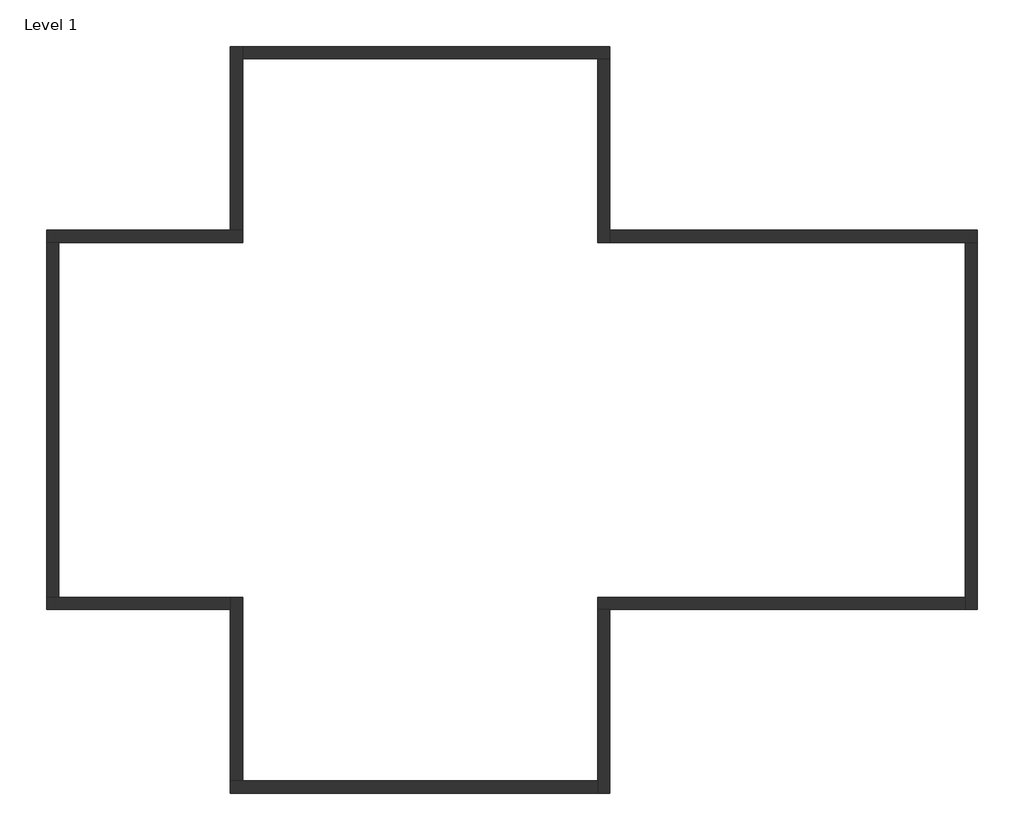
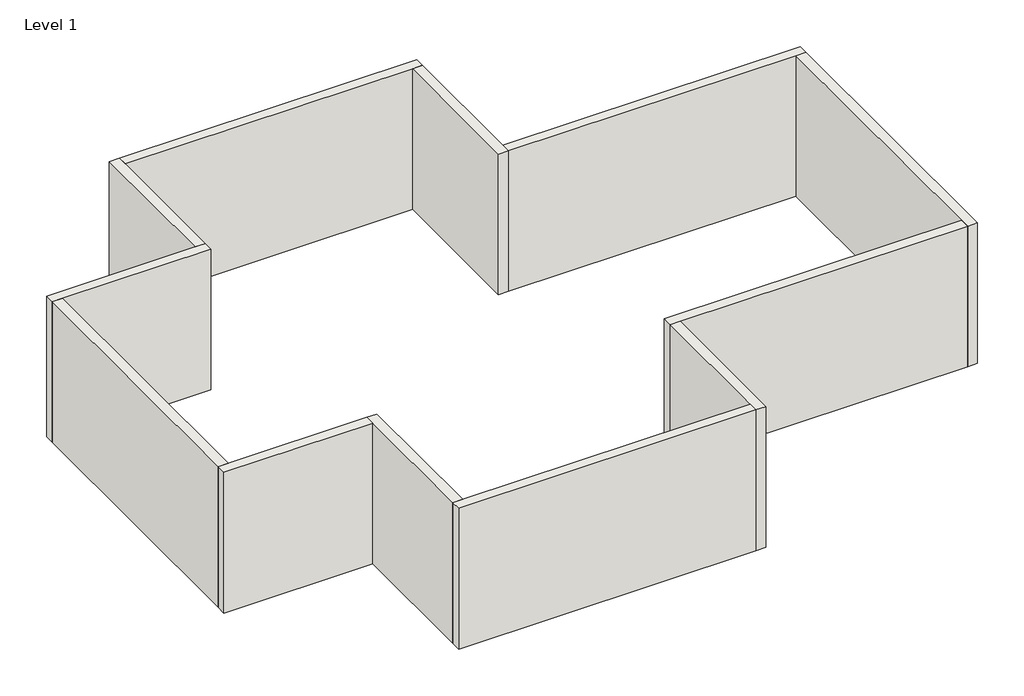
# One storey: 12 walls.
"""IFC4 building model written with IfcOpenShell, lengths in millimetres."""

from ifc_helpers import new_model, si_unit, origin, origin_with_axes, place, context, project, spatial, polyline, outline, extrude, faceted_brep, element, save

model = new_model("IFC4")

# Units and contexts
model_context = context("Model", 3, world=origin())
ifc_project = project(units=[si_unit("LENGTHUNIT", "METRE", prefix="MILLI")], contexts=[model_context])

# Site, building, storey
site = spatial("IfcSite", under=ifc_project)
building = spatial("IfcBuilding", under=site)
storey = spatial("IfcBuildingStorey", under=building, Name="Level 1", Elevation=0.0)

# Walls
placement = place(None, origin())
element("IfcWall", 1, ObjectType="Generic - 8\"", at=placement, inside=storey, context=model_context, shape_type="Brep", body=[
    faceted_brep([(-10384.9497318, 3700.8807659, 0.0), (-10181.7497318, 3700.8807659, 0.0), (-7133.7497318, 3700.8807659, 0.0), (-7133.7497318, 3700.8807659, 3048.0), (-10181.7497318, 3700.8807659, 3048.0), (-10384.9497318, 3700.8807659, 3048.0), (-10384.9497318, 3904.0807659, 0.0), (-10384.9497318, 3904.0807659, 3048.0), (-7336.9497318, 3904.0807659, 3048.0), (-7133.7497318, 3904.0807659, 3048.0), (-7133.7497318, 3904.0807659, 0.0), (-7336.9497318, 3904.0807659, 0.0)], [[[0, 1, 2, 3, 4, 5]], [[6, 7, 8, 9, 10, 11]], [[2, 1, 0, 6, 11, 10]], [[5, 4, 3, 9, 8, 7]], [[3, 2, 10, 9]], [[0, 5, 7, 6]]]),
])
element("IfcWall", 2, ObjectType="Generic - 8\"", at=placement, inside=storey, context=model_context, shape_type="Brep", body=[
    faceted_brep([(-7133.7497318, 3904.0807659, 0.0), (-7133.7497318, 6748.8807659, 0.0), (-7133.7497318, 6952.0807659, 0.0), (-7133.7497318, 6952.0807659, 3048.0), (-7133.7497318, 6748.8807659, 3048.0), (-7133.7497318, 3904.0807659, 3048.0), (-7336.9497318, 3904.0807659, 0.0), (-7336.9497318, 3904.0807659, 3048.0), (-7336.9497318, 6952.0807659, 3048.0), (-7336.9497318, 6952.0807659, 0.0)], [[[0, 1, 2, 3, 4, 5]], [[6, 7, 8, 9]], [[2, 1, 0, 6, 9]], [[5, 4, 3, 8, 7]], [[3, 2, 9, 8]], [[0, 5, 7, 6]]]),
])
element("IfcWall", 3, ObjectType="Generic - 8\"", at=placement, inside=storey, context=model_context, shape_type="Brep", body=[
    faceted_brep([(-7133.7497318, 6748.8807659, 0.0), (-1240.9497318, 6748.8807659, 0.0), (-1037.7497318, 6748.8807659, 0.0), (-1037.7497318, 6748.8807659, 3048.0), (-1240.9497318, 6748.8807659, 3048.0), (-7133.7497318, 6748.8807659, 3048.0), (-7133.7497318, 6952.0807659, 0.0), (-7133.7497318, 6952.0807659, 3048.0), (-1037.7497318, 6952.0807659, 3048.0), (-1037.7497318, 6952.0807659, 0.0)], [[[0, 1, 2, 3, 4, 5]], [[6, 7, 8, 9]], [[2, 1, 0, 6, 9]], [[5, 4, 3, 8, 7]], [[3, 2, 9, 8]], [[0, 5, 7, 6]]]),
])
element("IfcWall", 4, ObjectType="Generic - 8\"", at=placement, inside=storey, context=model_context, shape_type="Brep", body=[
    faceted_brep([(-1240.9497318, 6748.8807659, 0.0), (-1240.9497318, 3700.8807659, 0.0), (-1240.9497318, 3700.8807659, 3048.0), (-1240.9497318, 6748.8807659, 3048.0), (-1037.7497318, 6748.8807659, 0.0), (-1037.7497318, 6748.8807659, 3048.0), (-1037.7497318, 3904.0807659, 3048.0), (-1037.7497318, 3700.8807659, 3048.0), (-1037.7497318, 3700.8807659, 0.0), (-1037.7497318, 3904.0807659, 0.0)], [[[0, 1, 2, 3]], [[4, 5, 6, 7, 8, 9]], [[1, 0, 4, 9, 8]], [[3, 2, 7, 6, 5]], [[2, 1, 8, 7]], [[0, 3, 5, 4]]]),
])
element("IfcWall", 5, ObjectType="Generic - 8\"", at=placement, inside=storey, context=model_context, shape_type="Brep", body=[
    faceted_brep([(-1037.7497318, 3700.8807659, 0.0), (4855.0502682, 3700.8807659, 0.0), (5058.2502682, 3700.8807659, 0.0), (5058.2502682, 3700.8807659, 3048.0), (4855.0502682, 3700.8807659, 3048.0), (-1037.7497318, 3700.8807659, 3048.0), (-1037.7497318, 3904.0807659, 0.0), (-1037.7497318, 3904.0807659, 3048.0), (5058.2502682, 3904.0807659, 3048.0), (5058.2502682, 3904.0807659, 0.0)], [[[0, 1, 2, 3, 4, 5]], [[6, 7, 8, 9]], [[2, 1, 0, 6, 9]], [[5, 4, 3, 8, 7]], [[3, 2, 9, 8]], [[0, 5, 7, 6]]]),
])
element("IfcWall", 6, ObjectType="Generic - 8\"", at=placement, inside=storey, context=model_context, shape_type="Brep", body=[
    faceted_brep([(4855.0502682, 3700.8807659, 0.0), (4855.0502682, -2191.9192341, 0.0), (4855.0502682, -2395.1192341, 0.0), (4855.0502682, -2395.1192341, 3048.0), (4855.0502682, -2191.9192341, 3048.0), (4855.0502682, 3700.8807659, 3048.0), (5058.2502682, 3700.8807659, 0.0), (5058.2502682, 3700.8807659, 3048.0), (5058.2502682, -2395.1192341, 3048.0), (5058.2502682, -2395.1192341, 0.0)], [[[0, 1, 2, 3, 4, 5]], [[6, 7, 8, 9]], [[2, 1, 0, 6, 9]], [[5, 4, 3, 8, 7]], [[3, 2, 9, 8]], [[0, 5, 7, 6]]]),
])
element("IfcWall", 7, ObjectType="Generic - 8\"", at=placement, inside=storey, context=model_context, shape_type="Brep", body=[
    faceted_brep([(4855.0502682, -2191.9192341, 0.0), (-1240.9497318, -2191.9192341, 0.0), (-1240.9497318, -2191.9192341, 3048.0), (4855.0502682, -2191.9192341, 3048.0), (4855.0502682, -2395.1192341, 0.0), (4855.0502682, -2395.1192341, 3048.0), (-1037.7497318, -2395.1192341, 3048.0), (-1240.9497318, -2395.1192341, 3048.0), (-1240.9497318, -2395.1192341, 0.0), (-1037.7497318, -2395.1192341, 0.0)], [[[0, 1, 2, 3]], [[4, 5, 6, 7, 8, 9]], [[1, 0, 4, 9, 8]], [[3, 2, 7, 6, 5]], [[2, 1, 8, 7]], [[0, 3, 5, 4]]]),
])
element("IfcWall", 8, ObjectType="Generic - 8\"", at=placement, inside=storey, context=model_context, shape_type="Brep", body=[
    faceted_brep([(-1240.9497318, -2395.1192341, 0.0), (-1240.9497318, -5239.9192341, 0.0), (-1240.9497318, -5443.1192341, 0.0), (-1240.9497318, -5443.1192341, 3048.0), (-1240.9497318, -5239.9192341, 3048.0), (-1240.9497318, -2395.1192341, 3048.0), (-1037.7497318, -2395.1192341, 0.0), (-1037.7497318, -2395.1192341, 3048.0), (-1037.7497318, -5443.1192341, 3048.0), (-1037.7497318, -5443.1192341, 0.0)], [[[0, 1, 2, 3, 4, 5]], [[6, 7, 8, 9]], [[2, 1, 0, 6, 9]], [[5, 4, 3, 8, 7]], [[3, 2, 9, 8]], [[0, 5, 7, 6]]]),
])
element("IfcWall", 9, ObjectType="Generic - 8\"", at=placement, inside=storey, context=model_context, shape_type="Brep", body=[
    faceted_brep([(-1240.9497318, -5239.9192341, 0.0), (-7133.7497318, -5239.9192341, 0.0), (-7336.9497318, -5239.9192341, 0.0), (-7336.9497318, -5239.9192341, 3048.0), (-7133.7497318, -5239.9192341, 3048.0), (-1240.9497318, -5239.9192341, 3048.0), (-1240.9497318, -5443.1192341, 0.0), (-1240.9497318, -5443.1192341, 3048.0), (-7336.9497318, -5443.1192341, 3048.0), (-7336.9497318, -5443.1192341, 0.0)], [[[0, 1, 2, 3, 4, 5]], [[6, 7, 8, 9]], [[2, 1, 0, 6, 9]], [[5, 4, 3, 8, 7]], [[3, 2, 9, 8]], [[0, 5, 7, 6]]]),
])
element("IfcWall", 10, ObjectType="Generic - 8\"", at=placement, inside=storey, context=model_context, shape_type="Brep", body=[
    faceted_brep([(-7133.7497318, -5239.9192341, 0.0), (-7133.7497318, -2191.9192341, 0.0), (-7133.7497318, -2191.9192341, 3048.0), (-7133.7497318, -5239.9192341, 3048.0), (-7336.9497318, -5239.9192341, 0.0), (-7336.9497318, -5239.9192341, 3048.0), (-7336.9497318, -2395.1192341, 3048.0), (-7336.9497318, -2191.9192341, 3048.0), (-7336.9497318, -2191.9192341, 0.0), (-7336.9497318, -2395.1192341, 0.0)], [[[0, 1, 2, 3]], [[4, 5, 6, 7, 8, 9]], [[1, 0, 4, 9, 8]], [[3, 2, 7, 6, 5]], [[2, 1, 8, 7]], [[0, 3, 5, 4]]]),
])
element("IfcWall", 11, ObjectType="Generic - 8\"", at=placement, inside=storey, context=model_context, shape_type="Brep", body=[
    faceted_brep([(-7336.9497318, -2191.9192341, 0.0), (-10181.7497318, -2191.9192341, 0.0), (-10384.9497318, -2191.9192341, 0.0), (-10384.9497318, -2191.9192341, 3048.0), (-10181.7497318, -2191.9192341, 3048.0), (-7336.9497318, -2191.9192341, 3048.0), (-7336.9497318, -2395.1192341, 0.0), (-7336.9497318, -2395.1192341, 3048.0), (-10384.9497318, -2395.1192341, 3048.0), (-10384.9497318, -2395.1192341, 0.0)], [[[0, 1, 2, 3, 4, 5]], [[6, 7, 8, 9]], [[2, 1, 0, 6, 9]], [[5, 4, 3, 8, 7]], [[3, 2, 9, 8]], [[0, 5, 7, 6]]]),
])
element("IfcWall", 12, ObjectType="Generic - 8\"", at=placement, inside=storey, context=model_context, shape_type="SweptSolid", body=[
    extrude(outline(polyline([(-10181.7497318, 3700.8807659), (-10181.7497318, -2191.9192341), (-10384.9497318, -2191.9192341), (-10384.9497318, 3700.8807659), (-10181.7497318, 3700.8807659)])), origin_with_axes(), (0.0, 0.0, 1.0), 3048.0),
])

save(model, "model.ifc")
